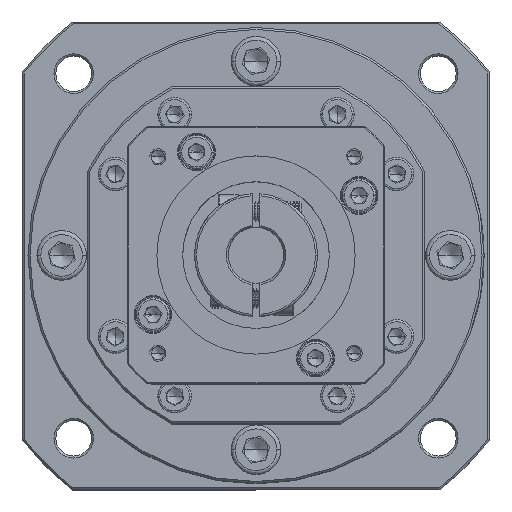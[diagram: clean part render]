
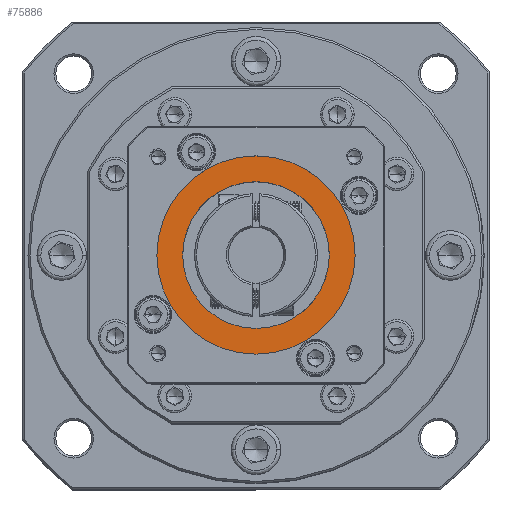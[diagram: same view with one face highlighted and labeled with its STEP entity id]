
A CAD part, top view. The second image highlights one B-rep face of the part: STEP entity #75886.
In plain terms, the highlighted planar face has unit normal (0, 0, 1).
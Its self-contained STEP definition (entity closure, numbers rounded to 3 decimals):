
#9467 = DIRECTION ( 'NONE',  ( 0., 0., -1. ) ) ;
#9643 = CIRCLE ( 'NONE', #61145, 25. ) ;
#11595 = CARTESIAN_POINT ( 'NONE',  ( -39.339, 32.46, 10.381 ) ) ;
#11634 = DIRECTION ( 'NONE',  ( 0., 0., 1. ) ) ;
#11668 = CIRCLE ( 'NONE', #37268, 18.5 ) ;
#13076 = CARTESIAN_POINT ( 'NONE',  ( -89.339, 32.46, 10.381 ) ) ;
#13258 = EDGE_LOOP ( 'NONE', ( #101413, #46389 ) ) ;
#15826 = CARTESIAN_POINT ( 'NONE',  ( -64.339, 32.46, 10.381 ) ) ;
#22087 = FACE_OUTER_BOUND ( 'NONE', #13258, .T. ) ;
#24134 = AXIS2_PLACEMENT_3D ( 'NONE', #62986, #9467, #71980 ) ;
#24834 = DIRECTION ( 'NONE',  ( 1., 0., 0. ) ) ;
#26922 = AXIS2_PLACEMENT_3D ( 'NONE', #65158, #11634, #74143 ) ;
#29198 = PLANE ( 'NONE',  #26922 ) ;
#30700 = CARTESIAN_POINT ( 'NONE',  ( -64.339, 32.46, 10.381 ) ) ;
#30857 = DIRECTION ( 'NONE',  ( 0., 0., 1. ) ) ;
#37268 = AXIS2_PLACEMENT_3D ( 'NONE', #30700, #93237, #39687 ) ;
#39687 = DIRECTION ( 'NONE',  ( 1., 0., 0. ) ) ;
#41351 = EDGE_CURVE ( 'NONE', #111044, #81582, #83707, .T. ) ;
#46389 = ORIENTED_EDGE ( 'NONE', *, *, #58935, .T. ) ;
#53602 = CARTESIAN_POINT ( 'NONE',  ( -45.839, 32.46, 10.381 ) ) ;
#58935 = EDGE_CURVE ( 'NONE', #115723, #65251, #85922, .T. ) ;
#61145 = AXIS2_PLACEMENT_3D ( 'NONE', #84379, #30857, #93394 ) ;
#62986 = CARTESIAN_POINT ( 'NONE',  ( -64.339, 32.46, 10.381 ) ) ;
#65158 = CARTESIAN_POINT ( 'NONE',  ( -64.339, 32.46, 10.381 ) ) ;
#65251 = VERTEX_POINT ( 'NONE', #11595 ) ;
#66634 = AXIS2_PLACEMENT_3D ( 'NONE', #15826, #78370, #24834 ) ;
#67850 = ORIENTED_EDGE ( 'NONE', *, *, #41351, .T. ) ;
#71980 = DIRECTION ( 'NONE',  ( 1., 0., 0. ) ) ;
#74143 = DIRECTION ( 'NONE',  ( 1., 0., 0. ) ) ;
#75886 = ADVANCED_FACE ( 'NONE', ( #22087, #93444 ), #29198, .T. ) ;
#78370 = DIRECTION ( 'NONE',  ( 0., 0., 1. ) ) ;
#81582 = VERTEX_POINT ( 'NONE', #53602 ) ;
#83403 = EDGE_LOOP ( 'NONE', ( #109925, #67850 ) ) ;
#83707 = CIRCLE ( 'NONE', #24134, 18.5 ) ;
#84379 = CARTESIAN_POINT ( 'NONE',  ( -64.339, 32.46, 10.381 ) ) ;
#85922 = CIRCLE ( 'NONE', #66634, 25. ) ;
#93237 = DIRECTION ( 'NONE',  ( 0., 0., -1. ) ) ;
#93394 = DIRECTION ( 'NONE',  ( 1., 0., 0. ) ) ;
#93444 = FACE_BOUND ( 'NONE', #83403, .T. ) ;
#97115 = EDGE_CURVE ( 'NONE', #65251, #115723, #9643, .T. ) ;
#101413 = ORIENTED_EDGE ( 'NONE', *, *, #97115, .T. ) ;
#103920 = EDGE_CURVE ( 'NONE', #81582, #111044, #11668, .T. ) ;
#109141 = CARTESIAN_POINT ( 'NONE',  ( -82.839, 32.46, 10.381 ) ) ;
#109925 = ORIENTED_EDGE ( 'NONE', *, *, #103920, .T. ) ;
#111044 = VERTEX_POINT ( 'NONE', #109141 ) ;
#115723 = VERTEX_POINT ( 'NONE', #13076 ) ;
